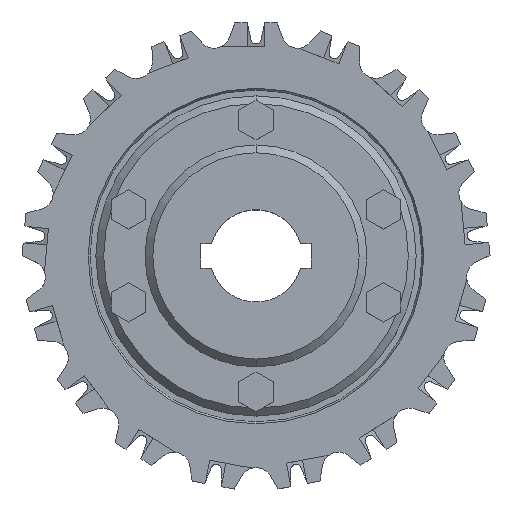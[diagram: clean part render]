
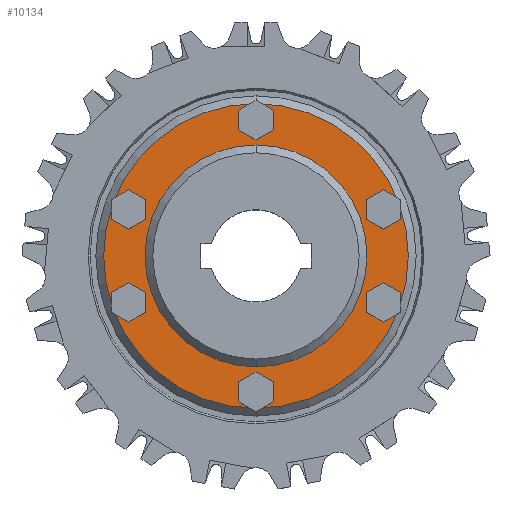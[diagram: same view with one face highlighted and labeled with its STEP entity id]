
A CAD part, top view. The second image highlights one B-rep face of the part: STEP entity #10134.
In plain terms, the highlighted planar face has unit normal (0, 0, 1) as drawn and (0, 1, 0) by its records, which use the part's own axes.
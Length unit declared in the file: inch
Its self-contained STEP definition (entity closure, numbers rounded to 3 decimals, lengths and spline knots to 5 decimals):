
#9630=CARTESIAN_POINT('',(0.,0.095,0.));
#9631=DIRECTION('',(0.,1.,0.));
#9632=DIRECTION('',(1.,0.,0.));
#9633=AXIS2_PLACEMENT_3D('',#9630,#9631,#9632);
#9640=CARTESIAN_POINT('',(0.,0.095,0.));
#9641=DIRECTION('',(0.,-1.,0.));
#9642=DIRECTION('',(1.,0.,0.));
#9643=AXIS2_PLACEMENT_3D('',#9640,#9641,#9642);
#9645=CARTESIAN_POINT('',(0.,0.095,0.));
#9646=DIRECTION('',(0.,-1.,0.));
#9647=DIRECTION('',(-1.,0.,0.));
#9648=AXIS2_PLACEMENT_3D('',#9645,#9646,#9647);
#9650=CARTESIAN_POINT('',(-1.74,0.095,0.));
#9651=DIRECTION('',(0.,-1.,0.));
#9652=DIRECTION('',(1.,0.,0.));
#9653=AXIS2_PLACEMENT_3D('',#9650,#9651,#9652);
#9655=CARTESIAN_POINT('',(-1.74,0.095,0.));
#9656=DIRECTION('',(0.,-1.,0.));
#9657=DIRECTION('',(-1.,0.,0.));
#9658=AXIS2_PLACEMENT_3D('',#9655,#9656,#9657);
#9660=CARTESIAN_POINT('',(-0.59529,0.095,-1.635));
#9661=DIRECTION('',(0.,-1.,0.));
#9662=DIRECTION('',(1.,0.,0.));
#9663=AXIS2_PLACEMENT_3D('',#9660,#9661,#9662);
#9665=CARTESIAN_POINT('',(-0.59529,0.095,-1.635));
#9666=DIRECTION('',(0.,-1.,0.));
#9667=DIRECTION('',(-1.,0.,0.));
#9668=AXIS2_PLACEMENT_3D('',#9665,#9666,#9667);
#9670=CARTESIAN_POINT('',(0.59529,0.095,-1.635));
#9671=DIRECTION('',(0.,-1.,0.));
#9672=DIRECTION('',(1.,0.,0.));
#9673=AXIS2_PLACEMENT_3D('',#9670,#9671,#9672);
#9675=CARTESIAN_POINT('',(0.59529,0.095,-1.635));
#9676=DIRECTION('',(0.,-1.,0.));
#9677=DIRECTION('',(-1.,0.,0.));
#9678=AXIS2_PLACEMENT_3D('',#9675,#9676,#9677);
#9680=CARTESIAN_POINT('',(1.74,0.095,0.));
#9681=DIRECTION('',(0.,-1.,0.));
#9682=DIRECTION('',(1.,0.,0.));
#9683=AXIS2_PLACEMENT_3D('',#9680,#9681,#9682);
#9685=CARTESIAN_POINT('',(1.74,0.095,0.));
#9686=DIRECTION('',(0.,-1.,0.));
#9687=DIRECTION('',(-1.,0.,0.));
#9688=AXIS2_PLACEMENT_3D('',#9685,#9686,#9687);
#9690=CARTESIAN_POINT('',(-0.59529,0.095,1.635));
#9691=DIRECTION('',(0.,1.,0.));
#9692=DIRECTION('',(1.,0.,0.));
#9693=AXIS2_PLACEMENT_3D('',#9690,#9691,#9692);
#9695=CARTESIAN_POINT('',(-0.59529,0.095,1.635));
#9696=DIRECTION('',(0.,1.,0.));
#9697=DIRECTION('',(-1.,0.,0.));
#9698=AXIS2_PLACEMENT_3D('',#9695,#9696,#9697);
#9700=CARTESIAN_POINT('',(0.59529,0.095,1.635));
#9701=DIRECTION('',(0.,1.,0.));
#9702=DIRECTION('',(1.,0.,0.));
#9703=AXIS2_PLACEMENT_3D('',#9700,#9701,#9702);
#9705=CARTESIAN_POINT('',(0.59529,0.095,1.635));
#9706=DIRECTION('',(0.,1.,0.));
#9707=DIRECTION('',(-1.,0.,0.));
#9708=AXIS2_PLACEMENT_3D('',#9705,#9706,#9707);
#9812=CARTESIAN_POINT('',(0.,0.095,0.));
#9813=DIRECTION('',(0.,1.,0.));
#9814=DIRECTION('',(-1.,0.,0.));
#9815=AXIS2_PLACEMENT_3D('',#9812,#9813,#9814);
#9886=CARTESIAN_POINT('',(1.4205,0.095,0.));
#9887=CARTESIAN_POINT('',(-1.4205,0.095,0.));
#9888=VERTEX_POINT('',#9886);
#9889=VERTEX_POINT('',#9887);
#9890=CARTESIAN_POINT('',(1.95,0.095,0.));
#9891=CARTESIAN_POINT('',(-1.95,0.095,0.));
#9892=VERTEX_POINT('',#9890);
#9893=VERTEX_POINT('',#9891);
#9902=CARTESIAN_POINT('',(-1.613,0.095,0.));
#9903=CARTESIAN_POINT('',(-1.867,0.095,0.));
#9904=VERTEX_POINT('',#9902);
#9905=VERTEX_POINT('',#9903);
#9918=CARTESIAN_POINT('',(-0.46829,0.095,-1.635));
#9919=CARTESIAN_POINT('',(-0.72229,0.095,-1.635));
#9920=VERTEX_POINT('',#9918);
#9921=VERTEX_POINT('',#9919);
#9922=CARTESIAN_POINT('',(0.72229,0.095,-1.635));
#9923=CARTESIAN_POINT('',(0.46829,0.095,-1.635));
#9924=VERTEX_POINT('',#9922);
#9925=VERTEX_POINT('',#9923);
#9926=CARTESIAN_POINT('',(1.867,0.095,0.));
#9927=CARTESIAN_POINT('',(1.613,0.095,0.));
#9928=VERTEX_POINT('',#9926);
#9929=VERTEX_POINT('',#9927);
#9938=CARTESIAN_POINT('',(-0.46829,0.095,1.635));
#9939=CARTESIAN_POINT('',(-0.72229,0.095,1.635));
#9940=VERTEX_POINT('',#9938);
#9941=VERTEX_POINT('',#9939);
#9942=CARTESIAN_POINT('',(0.72229,0.095,1.635));
#9943=CARTESIAN_POINT('',(0.46829,0.095,1.635));
#9944=VERTEX_POINT('',#9942);
#9945=VERTEX_POINT('',#9943);
#10082=CARTESIAN_POINT('',(0.,0.095,0.));
#10083=DIRECTION('',(0.,1.,0.));
#10084=DIRECTION('',(1.,0.,0.));
#10085=AXIS2_PLACEMENT_3D('',#10082,#10083,#10084);
#10086=PLANE('',#10085);
#10087=ORIENTED_EDGE('',*,*,#10072,.F.);
#10089=ORIENTED_EDGE('',*,*,#10088,.F.);
#10090=EDGE_LOOP('',(#10087,#10089));
#10091=FACE_OUTER_BOUND('',#10090,.F.);
#10093=ORIENTED_EDGE('',*,*,#10092,.F.);
#10095=ORIENTED_EDGE('',*,*,#10094,.F.);
#10096=EDGE_LOOP('',(#10093,#10095));
#10097=FACE_BOUND('',#10096,.F.);
#10099=ORIENTED_EDGE('',*,*,#10098,.F.);
#10101=ORIENTED_EDGE('',*,*,#10100,.F.);
#10102=EDGE_LOOP('',(#10099,#10101));
#10103=FACE_BOUND('',#10102,.F.);
#10105=ORIENTED_EDGE('',*,*,#10104,.F.);
#10107=ORIENTED_EDGE('',*,*,#10106,.F.);
#10108=EDGE_LOOP('',(#10105,#10107));
#10109=FACE_BOUND('',#10108,.F.);
#10111=ORIENTED_EDGE('',*,*,#10110,.F.);
#10113=ORIENTED_EDGE('',*,*,#10112,.F.);
#10114=EDGE_LOOP('',(#10111,#10113));
#10115=FACE_BOUND('',#10114,.F.);
#10117=ORIENTED_EDGE('',*,*,#10116,.F.);
#10119=ORIENTED_EDGE('',*,*,#10118,.F.);
#10120=EDGE_LOOP('',(#10117,#10119));
#10121=FACE_BOUND('',#10120,.F.);
#10123=ORIENTED_EDGE('',*,*,#10122,.T.);
#10125=ORIENTED_EDGE('',*,*,#10124,.T.);
#10126=EDGE_LOOP('',(#10123,#10125));
#10127=FACE_BOUND('',#10126,.F.);
#10129=ORIENTED_EDGE('',*,*,#10128,.T.);
#10131=ORIENTED_EDGE('',*,*,#10130,.T.);
#10132=EDGE_LOOP('',(#10129,#10131));
#10133=FACE_BOUND('',#10132,.F.);
#10134=ADVANCED_FACE('',(#10091,#10097,#10103,#10109,#10115,#10121,#10127,
#10133),#10086,.T.);
#9634=CIRCLE('',#9633,1.95);
#9644=CIRCLE('',#9643,1.4205);
#9649=CIRCLE('',#9648,1.4205);
#9654=CIRCLE('',#9653,0.127);
#9659=CIRCLE('',#9658,0.127);
#9664=CIRCLE('',#9663,0.127);
#9669=CIRCLE('',#9668,0.127);
#9674=CIRCLE('',#9673,0.127);
#9679=CIRCLE('',#9678,0.127);
#9684=CIRCLE('',#9683,0.127);
#9689=CIRCLE('',#9688,0.127);
#9694=CIRCLE('',#9693,0.127);
#9699=CIRCLE('',#9698,0.127);
#9704=CIRCLE('',#9703,0.127);
#9709=CIRCLE('',#9708,0.127);
#9816=CIRCLE('',#9815,1.95);
#10072=EDGE_CURVE('',#9892,#9893,#9634,.T.);
#10088=EDGE_CURVE('',#9893,#9892,#9816,.T.);
#10092=EDGE_CURVE('',#9888,#9889,#9644,.T.);
#10094=EDGE_CURVE('',#9889,#9888,#9649,.T.);
#10098=EDGE_CURVE('',#9904,#9905,#9654,.T.);
#10100=EDGE_CURVE('',#9905,#9904,#9659,.T.);
#10104=EDGE_CURVE('',#9920,#9921,#9664,.T.);
#10106=EDGE_CURVE('',#9921,#9920,#9669,.T.);
#10110=EDGE_CURVE('',#9924,#9925,#9674,.T.);
#10112=EDGE_CURVE('',#9925,#9924,#9679,.T.);
#10116=EDGE_CURVE('',#9928,#9929,#9684,.T.);
#10118=EDGE_CURVE('',#9929,#9928,#9689,.T.);
#10122=EDGE_CURVE('',#9940,#9941,#9694,.T.);
#10124=EDGE_CURVE('',#9941,#9940,#9699,.T.);
#10128=EDGE_CURVE('',#9944,#9945,#9704,.T.);
#10130=EDGE_CURVE('',#9945,#9944,#9709,.T.);
